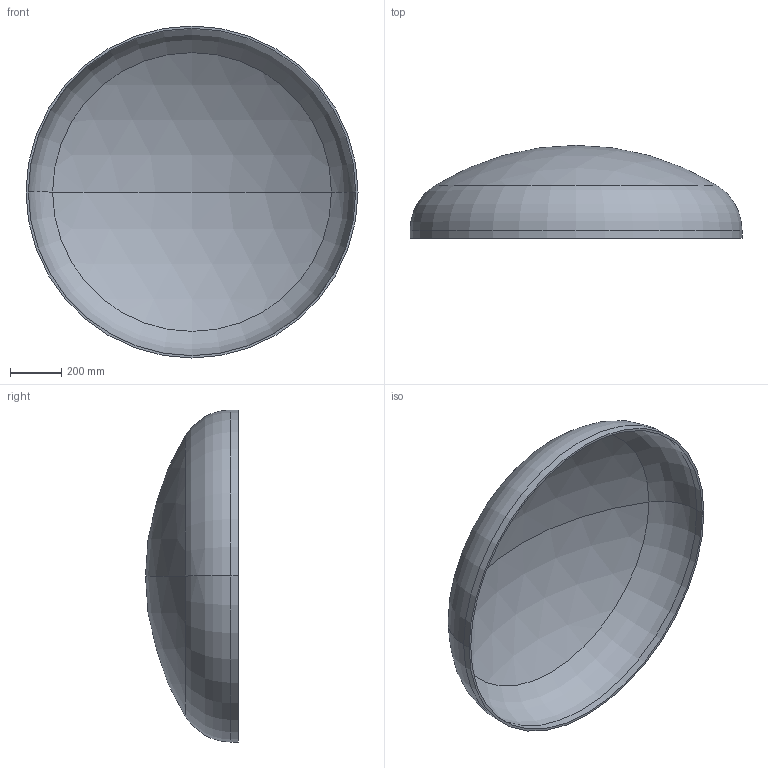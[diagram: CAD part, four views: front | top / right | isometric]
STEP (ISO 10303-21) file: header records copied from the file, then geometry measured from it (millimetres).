
FILE_DESCRIPTION (( 'STEP AP203' ), '1' );
FILE_NAME ('DIN 28013 Korbbogenform_-_Boden DIN 28013 - 1300 x 30 - I - s=9.step', '2016-07-01T09:42:20', ( '' ), ( '' ), 'SwSTEP 2.0', 'SolidWorks 2013', '' );
FILE_SCHEMA (( 'CONFIG_CONTROL_DESIGN' ));
Length unit declared in the file: millimetre
Products named in the file (1): DIN 28013 Korbbogenform_-_Boden DIN 28013 - 1300 x 30 - I - s=9
Bounding box: 1300 x 364.07 x 1300 mm (x, y, z)
Volume: 17486237.9 mm3; surface area: 3922501 mm2
Topology: 1 solids, 1 shells, 13 faces, 24 edges, 14 vertices
Faces by surface type: torus 4, cylinder 4, sphere 4, plane 1
Entity records: 407 total; most frequent: DIRECTION 72, CARTESIAN_POINT 52, ORIENTED_EDGE 48, AXIS2_PLACEMENT_3D 34, EDGE_CURVE 24, CIRCLE 20, EDGE_LOOP 14, VERTEX_POINT 14
